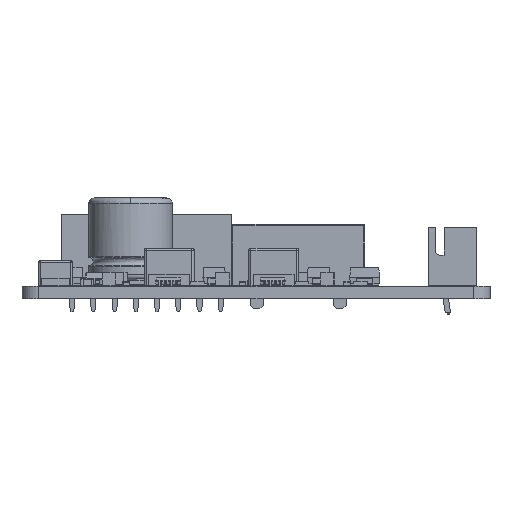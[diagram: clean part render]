
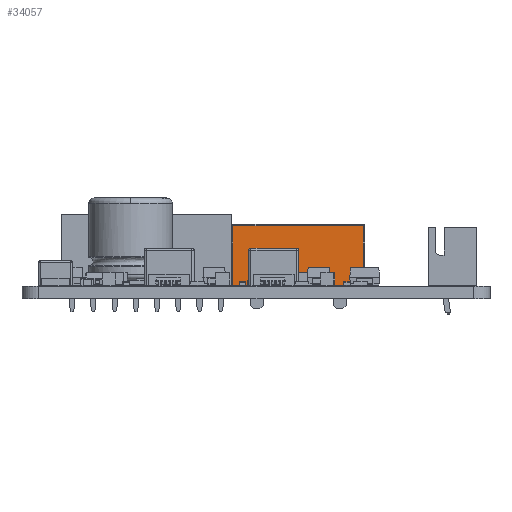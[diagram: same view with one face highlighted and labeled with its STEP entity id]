
A CAD part, left-side view. The second image highlights one B-rep face of the part: STEP entity #34057.
In plain terms, the highlighted planar face has unit normal (-1, 0, 0) as drawn and (0, 1, 0) by its records, which use the part's own axes.
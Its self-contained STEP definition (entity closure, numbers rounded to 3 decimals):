
#33672 = VERTEX_POINT('',#33673);
#33673 = CARTESIAN_POINT('',(12.76,1.67,0.));
#33680 = EDGE_CURVE('',#33672,#33681,#33683,.T.);
#33681 = VERTEX_POINT('',#33682);
#33682 = CARTESIAN_POINT('',(12.76,1.67,7.17));
#33683 = LINE('',#33684,#33685);
#33684 = CARTESIAN_POINT('',(12.76,1.67,0.));
#33685 = VECTOR('',#33686,1.);
#33686 = DIRECTION('',(0.,0.,1.));
#33738 = EDGE_CURVE('',#33672,#33739,#33741,.T.);
#33739 = VERTEX_POINT('',#33740);
#33740 = CARTESIAN_POINT('',(-2.84,1.67,0.));
#33741 = LINE('',#33742,#33743);
#33742 = CARTESIAN_POINT('',(12.96,1.67,0.));
#33743 = VECTOR('',#33744,1.);
#33744 = DIRECTION('',(-1.,0.,0.));
#34057 = ADVANCED_FACE('',(#34058),#34076,.F.);
#34058 = FACE_BOUND('',#34059,.F.);
#34059 = EDGE_LOOP('',(#34060,#34061,#34069,#34075));
#34060 = ORIENTED_EDGE('',*,*,#33680,.T.);
#34061 = ORIENTED_EDGE('',*,*,#34062,.T.);
#34062 = EDGE_CURVE('',#33681,#34063,#34065,.T.);
#34063 = VERTEX_POINT('',#34064);
#34064 = CARTESIAN_POINT('',(-2.84,1.67,7.17));
#34065 = LINE('',#34066,#34067);
#34066 = CARTESIAN_POINT('',(12.76,1.67,7.17));
#34067 = VECTOR('',#34068,1.);
#34068 = DIRECTION('',(-1.,0.,0.));
#34069 = ORIENTED_EDGE('',*,*,#34070,.F.);
#34070 = EDGE_CURVE('',#33739,#34063,#34071,.T.);
#34071 = LINE('',#34072,#34073);
#34072 = CARTESIAN_POINT('',(-2.84,1.67,0.));
#34073 = VECTOR('',#34074,1.);
#34074 = DIRECTION('',(0.,0.,1.));
#34075 = ORIENTED_EDGE('',*,*,#33738,.F.);
#34076 = PLANE('',#34077);
#34077 = AXIS2_PLACEMENT_3D('',#34078,#34079,#34080);
#34078 = CARTESIAN_POINT('',(12.96,1.67,0.));
#34079 = DIRECTION('',(0.,-1.,0.));
#34080 = DIRECTION('',(-1.,0.,0.));
